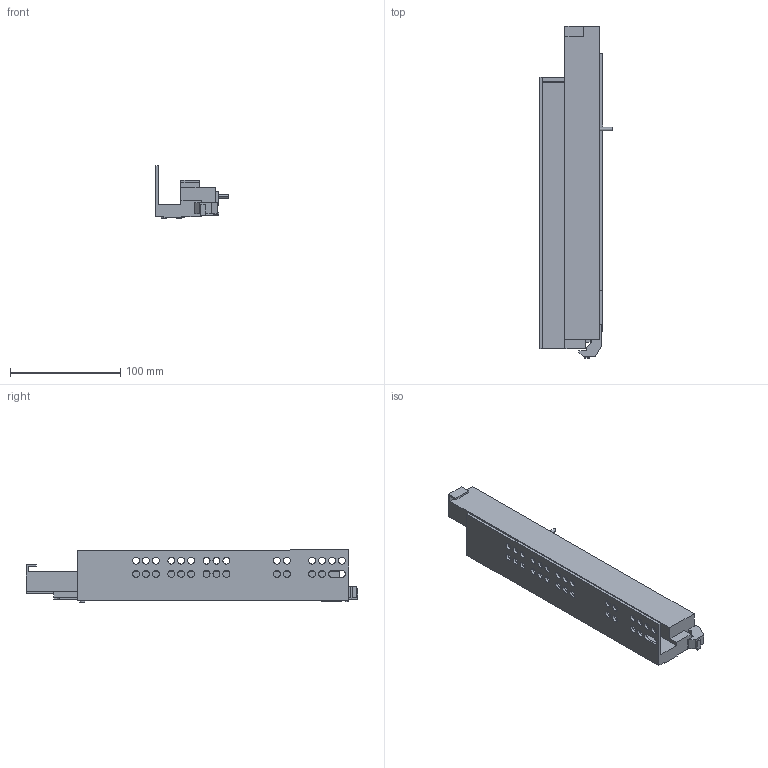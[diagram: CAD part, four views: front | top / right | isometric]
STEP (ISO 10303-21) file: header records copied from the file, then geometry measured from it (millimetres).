
FILE_DESCRIPTION (( 'STEP AP203' ), '1' );
FILE_NAME ('IMOS_Dynapro_Tipmatic_D51_NL_0_LI.STEP', '2013-03-22T12:17:24', ( 'Grass GmbH' ), ( 'Grass GmbH' ), 'SwSTEP 2.0', 'SolidWorks 2012', '' );
FILE_SCHEMA (( 'CONFIG_CONTROL_DESIGN' ));
Length unit declared in the file: millimetre
Products named in the file (1): IMOS_Dynapro_Tipmatic_D51_NL_0_LI
Bounding box: 65.92 x 301.55 x 47.46 mm (x, y, z)
Volume: 301289.3 mm3; surface area: 71767.3 mm2
Topology: 1 solids, 1 shells, 162 faces, 464 edges, 309 vertices
Faces by surface type: plane 97, cylinder 65
Entity records: 5503 total; most frequent: CARTESIAN_POINT 936, ORIENTED_EDGE 928, DIRECTION 920, EDGE_CURVE 464, LINE 334, VECTOR 334, VERTEX_POINT 309, AXIS2_PLACEMENT_3D 293
